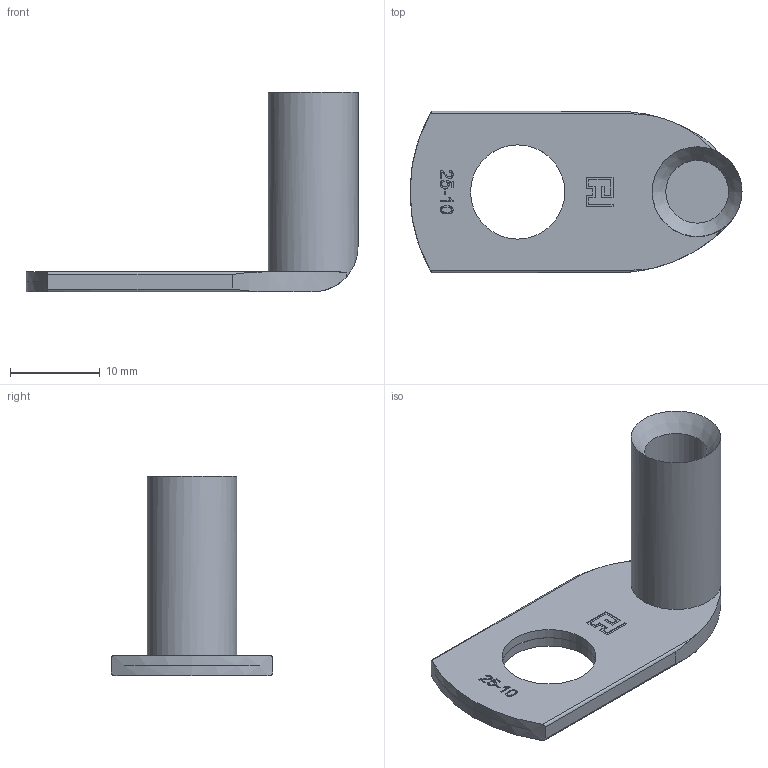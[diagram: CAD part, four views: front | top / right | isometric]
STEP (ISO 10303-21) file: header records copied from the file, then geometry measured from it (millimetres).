
FILE_DESCRIPTION(('FreeCAD Model'),'2;1');
FILE_NAME('Open CASCADE Shape Model','2022-02-03T15:29:59',( 'Frederic Herrmann'),('KEB Automation KG'), 'Open CASCADE STEP processor 7.5','FreeCAD','Unknown');
FILE_SCHEMA(('CONFIG_CONTROL_DESIGN','SHAPE_APPEARANCE_LAYER_MIM'));
Length unit declared in the file: millimetre
Products named in the file (1): 44R10 M10
Bounding box: 37 x 18 x 22.23 mm (x, y, z)
Volume: 2040.3 mm3; surface area: 2568.9 mm2
Topology: 1 solids, 1 shells, 138 faces, 385 edges, 257 vertices
Faces by surface type: plane 60, extrusion 57, cylinder 13, torus 7, cone 1
Full cylindrical faces by diameter (mm): 7 x1, 10 x1, 10.5 x2
Entity records: 11464 total; most frequent: CARTESIAN_POINT 4509, DIRECTION 948, ORIENTED_EDGE 770, PCURVE 770, DEFINITIONAL_REPRESENTATION 770, VECTOR 691, LINE 634, B_SPLINE_CURVE_WITH_KNOTS 517
